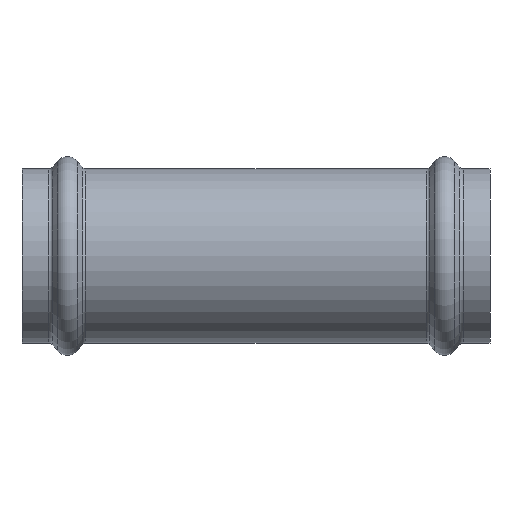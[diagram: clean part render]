
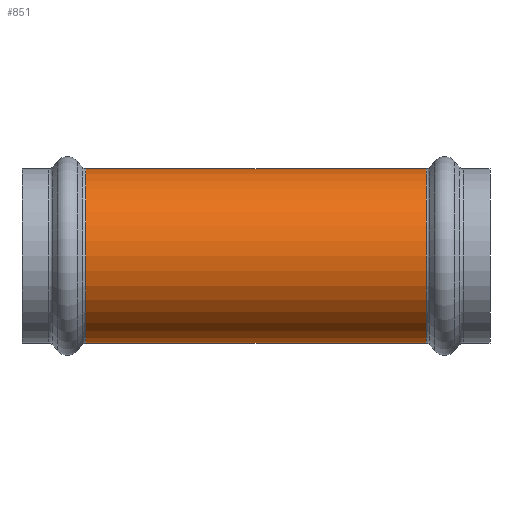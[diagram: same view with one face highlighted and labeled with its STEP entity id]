
A CAD part, front view. The second image highlights one B-rep face of the part: STEP entity #851.
In plain terms, the highlighted cylindrical face has radius 19.15 mm (diameter 38.3 mm), a partial arc.
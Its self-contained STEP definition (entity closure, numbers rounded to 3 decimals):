
#51 = VECTOR ( 'NONE', #505, 1000. ) ;
#65 = EDGE_CURVE ( 'NONE', #220, #680, #638, .T. ) ;
#135 = CYLINDRICAL_SURFACE ( 'NONE', #300, 19.15 ) ;
#191 = FACE_OUTER_BOUND ( 'NONE', #914, .T. ) ;
#213 = ORIENTED_EDGE ( 'NONE', *, *, #989, .T. ) ;
#216 = VECTOR ( 'NONE', #431, 1000. ) ;
#220 = VERTEX_POINT ( 'NONE', #557 ) ;
#223 = DIRECTION ( 'NONE',  ( 0., 0., 1. ) ) ;
#224 = CARTESIAN_POINT ( 'NONE',  ( 37.439, 0., 19.15 ) ) ;
#235 = VERTEX_POINT ( 'NONE', #224 ) ;
#257 = DIRECTION ( 'NONE',  ( -1., 0., 0. ) ) ;
#278 = CIRCLE ( 'NONE', #758, 19.15 ) ;
#283 = DIRECTION ( 'NONE',  ( 0., 0., -1. ) ) ;
#300 = AXIS2_PLACEMENT_3D ( 'NONE', #1084, #1063, #223 ) ;
#303 = CARTESIAN_POINT ( 'NONE',  ( 37.439, 0., 0. ) ) ;
#348 = ORIENTED_EDGE ( 'NONE', *, *, #65, .F. ) ;
#364 = CARTESIAN_POINT ( 'NONE',  ( -37.439, 0., 0. ) ) ;
#366 = DIRECTION ( 'NONE',  ( 1., 0., 0. ) ) ;
#378 = DIRECTION ( 'NONE',  ( 0., 0., 1. ) ) ;
#431 = DIRECTION ( 'NONE',  ( -1., 0., 0. ) ) ;
#505 = DIRECTION ( 'NONE',  ( -1., 0., 0. ) ) ;
#511 = CARTESIAN_POINT ( 'NONE',  ( -37.439, 0., -19.15 ) ) ;
#512 = AXIS2_PLACEMENT_3D ( 'NONE', #364, #366, #378 ) ;
#557 = CARTESIAN_POINT ( 'NONE',  ( 37.439, 0., -19.15 ) ) ;
#573 = CARTESIAN_POINT ( 'NONE',  ( -55.033, 0., 19.15 ) ) ;
#638 = LINE ( 'NONE', #963, #51 ) ;
#680 = VERTEX_POINT ( 'NONE', #511 ) ;
#758 = AXIS2_PLACEMENT_3D ( 'NONE', #303, #257, #283 ) ;
#809 = VERTEX_POINT ( 'NONE', #1225 ) ;
#822 = EDGE_CURVE ( 'NONE', #809, #680, #924, .T. ) ;
#832 = ORIENTED_EDGE ( 'NONE', *, *, #1062, .T. ) ;
#851 = ADVANCED_FACE ( 'NONE', ( #191 ), #135, .T. ) ;
#882 = LINE ( 'NONE', #573, #216 ) ;
#914 = EDGE_LOOP ( 'NONE', ( #348, #213, #832, #1205 ) ) ;
#924 = CIRCLE ( 'NONE', #512, 19.15 ) ;
#963 = CARTESIAN_POINT ( 'NONE',  ( -55.033, 0., -19.15 ) ) ;
#989 = EDGE_CURVE ( 'NONE', #220, #235, #278, .T. ) ;
#1062 = EDGE_CURVE ( 'NONE', #235, #809, #882, .T. ) ;
#1063 = DIRECTION ( 'NONE',  ( -1., 0., 0. ) ) ;
#1084 = CARTESIAN_POINT ( 'NONE',  ( -55.033, 0., 0. ) ) ;
#1205 = ORIENTED_EDGE ( 'NONE', *, *, #822, .T. ) ;
#1225 = CARTESIAN_POINT ( 'NONE',  ( -37.439, 0., 19.15 ) ) ;
